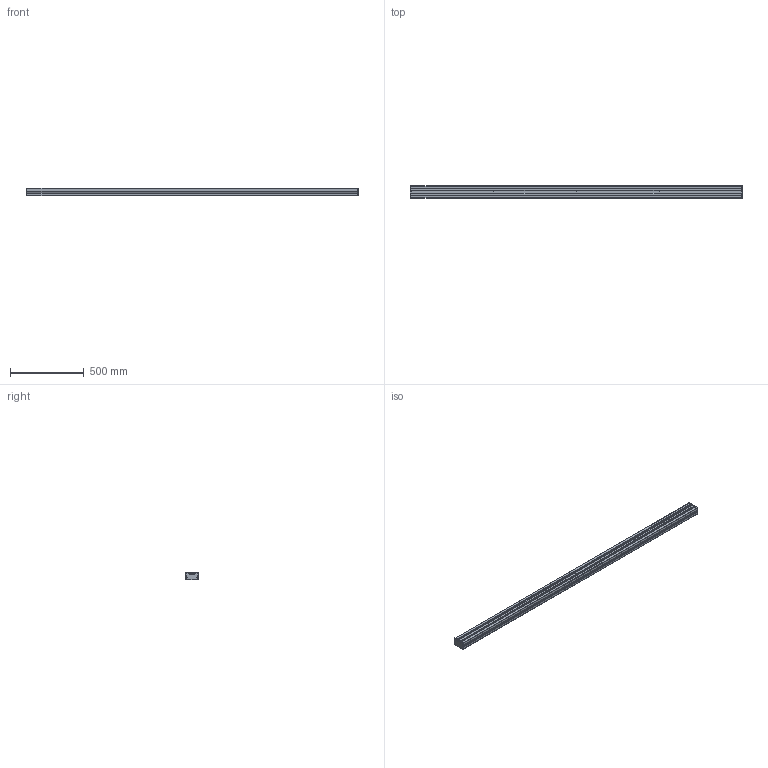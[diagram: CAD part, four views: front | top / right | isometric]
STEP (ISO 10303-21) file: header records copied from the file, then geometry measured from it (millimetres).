
FILE_DESCRIPTION(/* description */ (''),/* implementation_level */ '2;1');
FILE_NAME(/* name */ 'GDO_SYS_GDS22.stp',/* time_stamp */ '2025-09-10T16:52:58+02:00',/* author */ ('gian.noche'),/* organization */ (''),/* preprocessor_version */ 'ST-DEVELOPER v19.2',/* originating_system */ 'Autodesk Inventor 2023',/* authorisation */ '');
FILE_SCHEMA (('AUTOMOTIVE_DESIGN { 1 0 10303 214 3 1 1 }'));
Products named in the file (1): GDO_SYS_GDS22_Semplifica_1
Bounding box: 2247.5 x 86 x 53.7 mm (x, y, z)
Volume: 863206.8 mm3; surface area: 1431466.3 mm2
Topology: 1 solids, 1 shells, 1788 faces, 5318 edges, 3328 vertices
Faces by surface type: plane 1082, cylinder 594, bspline 88, cone 24
Entity records: 74829 total; most frequent: CARTESIAN_POINT 26823, ORIENTED_EDGE 10636, DIRECTION 9624, EDGE_CURVE 5318, LINE 3640, VECTOR 3640, VERTEX_POINT 3328, AXIS2_PLACEMENT_3D 2992
